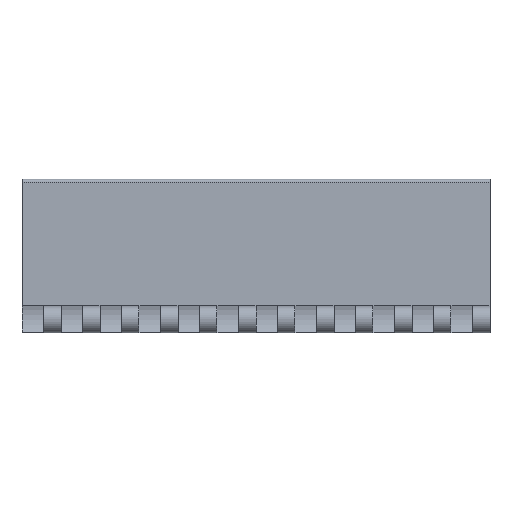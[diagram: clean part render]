
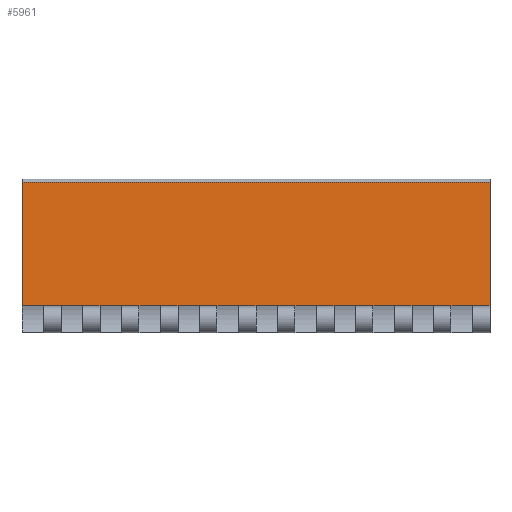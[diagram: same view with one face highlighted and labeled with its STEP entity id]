
A CAD part, left-side view. The second image highlights one B-rep face of the part: STEP entity #5961.
In plain terms, the highlighted planar face has unit normal (-1, 0, 0.029).
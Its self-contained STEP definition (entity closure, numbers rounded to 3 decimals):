
#1238=CARTESIAN_POINT('Line Origine',(-3.2,0.,4.4)) ;
#1242=CARTESIAN_POINT('Vertex',(-3.2,-76.2,4.4)) ;
#1244=CARTESIAN_POINT('Vertex',(-3.2,76.2,4.4)) ;
#5931=CARTESIAN_POINT('Axis2P3D Location',(-2.,0.,45.6)) ;
#5936=CARTESIAN_POINT('Line Origine',(-2.028,0.,44.629)) ;
#5940=CARTESIAN_POINT('Vertex',(-2.028,-76.2,44.629)) ;
#5942=CARTESIAN_POINT('Vertex',(-2.028,76.2,44.629)) ;
#5945=CARTESIAN_POINT('Line Origine',(-2.614,76.2,24.515)) ;
#5950=CARTESIAN_POINT('Line Origine',(-2.614,-76.2,24.515)) ;
#1239=DIRECTION('Vector Direction',(0.,1.,0.)) ;
#5932=DIRECTION('Axis2P3D Direction',(1.,0.,-0.029)) ;
#5933=DIRECTION('Axis2P3D XDirection',(-0.029,0.,-1.)) ;
#5937=DIRECTION('Vector Direction',(0.,1.,0.)) ;
#5946=DIRECTION('Vector Direction',(-0.029,0.,-1.)) ;
#5951=DIRECTION('Vector Direction',(-0.029,0.,-1.)) ;
#5934=AXIS2_PLACEMENT_3D('Plane Axis2P3D',#5931,#5932,#5933) ;
#5956=ORIENTED_EDGE('',*,*,#5944,.T.) ;
#5957=ORIENTED_EDGE('',*,*,#5949,.F.) ;
#5958=ORIENTED_EDGE('',*,*,#1246,.F.) ;
#5959=ORIENTED_EDGE('',*,*,#5954,.T.) ;
#1240=VECTOR('Line Direction',#1239,1.) ;
#5938=VECTOR('Line Direction',#5937,1.) ;
#5947=VECTOR('Line Direction',#5946,1.) ;
#5952=VECTOR('Line Direction',#5951,1.) ;
#5961=ADVANCED_FACE('PartBody',(#5960),#5935,.F.) ;
#1246=EDGE_CURVE('',#1243,#1245,#1241,.T.) ;
#5944=EDGE_CURVE('',#5941,#5943,#5939,.T.) ;
#5949=EDGE_CURVE('',#1245,#5943,#5948,.F.) ;
#5954=EDGE_CURVE('',#1243,#5941,#5953,.F.) ;
#5955=EDGE_LOOP('',(#5956,#5957,#5958,#5959)) ;
#5960=FACE_OUTER_BOUND('',#5955,.T.) ;
#1241=LINE('Line',#1238,#1240) ;
#5939=LINE('Line',#5936,#5938) ;
#5948=LINE('Line',#5945,#5947) ;
#5953=LINE('Line',#5950,#5952) ;
#5935=PLANE('',#5934) ;
#1243=VERTEX_POINT('',#1242) ;
#1245=VERTEX_POINT('',#1244) ;
#5941=VERTEX_POINT('',#5940) ;
#5943=VERTEX_POINT('',#5942) ;
